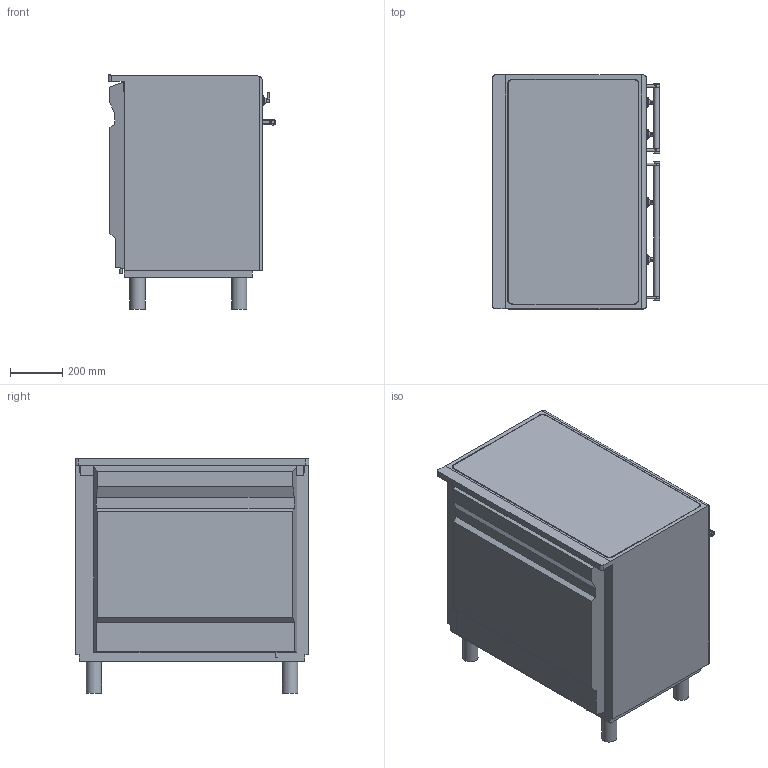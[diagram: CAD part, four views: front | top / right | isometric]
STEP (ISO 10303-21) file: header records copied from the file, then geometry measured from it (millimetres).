
FILE_DESCRIPTION(/* description */ ('Unknown'),/* implementation_level */ '2;1');
FILE_NAME(/* name */ 'CX92IM',/* time_stamp */ '2025-04-23T16:34:00+02:00',/* author */ ('Unknown'),/* organization */ ('Unknown'),/* preprocessor_version */ 'ST-DEVELOPER v16.7',/* originating_system */ 'DEX',/* authorisation */ $);
FILE_SCHEMA (('AUTOMOTIVE_DESIGN {1 0 10303 214 3 1 1}'));
Length unit declared in the file: millimetre
Products named in the file (1): CX92IM
Bounding box: 642.53 x 898 x 900.37 mm (x, y, z)
Volume: 377593693.2 mm3; surface area: 5709062.4 mm2
Topology: 4 solids, 4 shells, 295 faces, 759 edges, 515 vertices
Faces by surface type: plane 169, cylinder 86, bspline 36, cone 4
Full cylindrical faces by diameter (mm): 4.608 x6, 8 x4, 8.5 x4, 10 x1, 13 x4, 13.5 x4, 14.995 x4, 22 x6, 59 x4
Entity records: 12409 total; most frequent: CARTESIAN_POINT 3590, ORIENTED_EDGE 1388, DIRECTION 1296, EDGE_CURVE 694, VERTEX_POINT 491, AXIS2_PLACEMENT_3D 452, LINE 392, VECTOR 392
